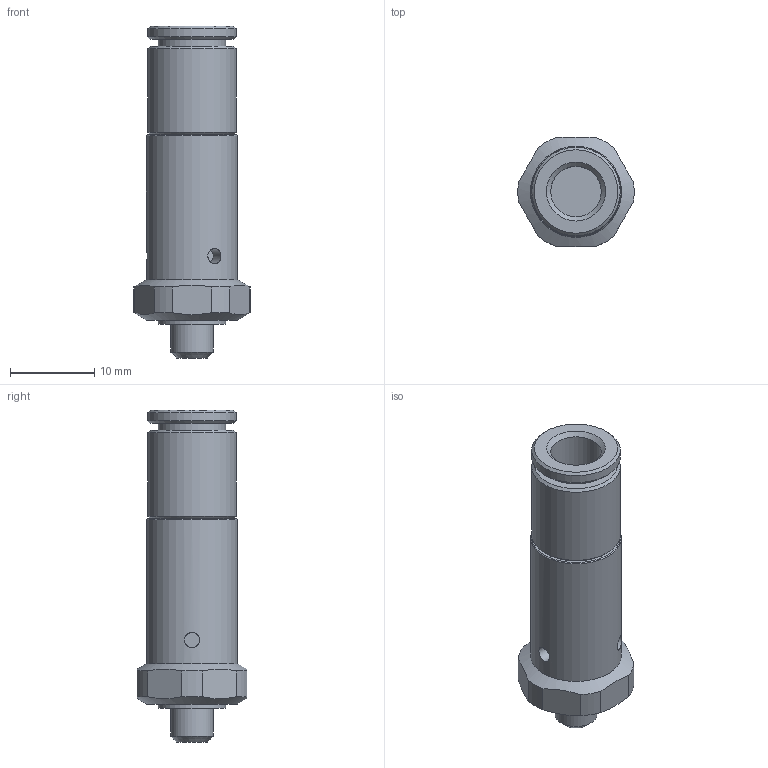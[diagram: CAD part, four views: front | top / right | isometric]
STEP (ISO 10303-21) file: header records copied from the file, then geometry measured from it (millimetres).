
FILE_DESCRIPTION(/* description */ ('V. S.RAPIDO IN TUBO d.6 OUT M5'),/* implementation_level */ '2;1');
FILE_NAME(/* name */ 'I:\Area Tecnica\Disegni\VARIE-3D\Componenti\600\6_02_##_##_L\6_02_06_M5_L.stp',/* time_stamp */ '2017-01-20T13:59:16+01:00',/* author */ ('maniean1'),/* organization */ ('Pneumax S.p.A.'),/* preprocessor_version */ 'ST-DEVELOPER v15.2',/* originating_system */ 'Autodesk Inventor 2014',/* authorisation */ '');
FILE_SCHEMA (('AUTOMOTIVE_DESIGN { 1 0 10303 214 3 1 1 }'));
Length unit declared in the file: millimetre
Products named in the file (1): 6_02_06_M5_L
Bounding box: 13.77 x 13 x 39.4 mm (x, y, z)
Volume: 2932.9 mm3; surface area: 1903.1 mm2
Topology: 1 solids, 1 shells, 42 faces, 85 edges, 54 vertices
Faces by surface type: plane 17, cylinder 16, cone 9
Full cylindrical faces by diameter (mm): 1.8 x3, 5 x1, 6 x1, 8 x2, 10.5 x2, 10.8 x1
Entity records: 1094 total; most frequent: CARTESIAN_POINT 282, DIRECTION 172, ORIENTED_EDGE 128, AXIS2_PLACEMENT_3D 80, EDGE_LOOP 70, EDGE_CURVE 64, VERTEX_POINT 52, ADVANCED_FACE 42
